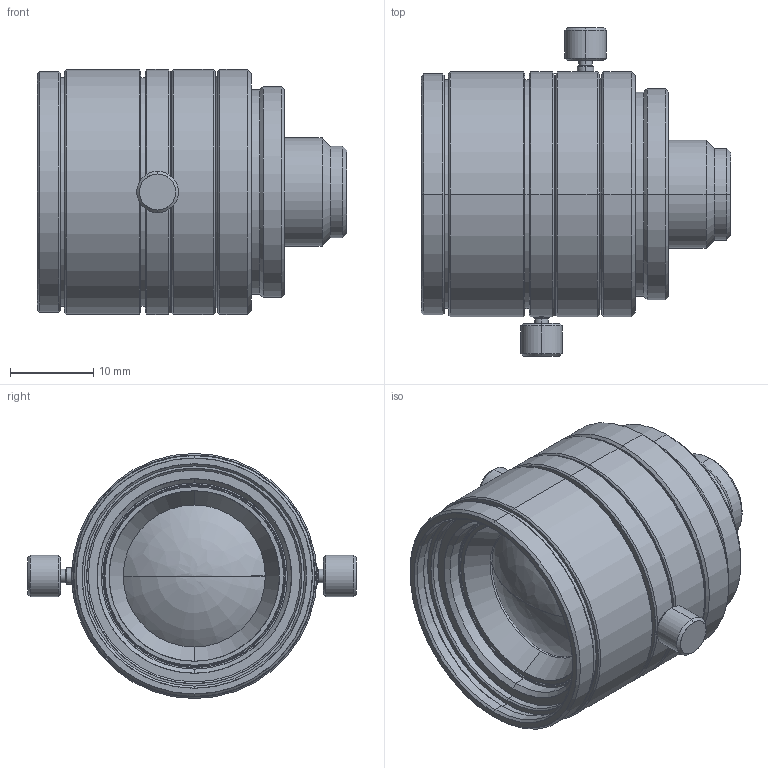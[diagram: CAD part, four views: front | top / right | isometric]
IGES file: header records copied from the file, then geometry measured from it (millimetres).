
Start section: SolidWorks IGES file using analytic representation for surfaces
Global section: file name: C:\Users\tsuji_vst\Documents\【図面】\_3D\00 VST\VS-LDA(APL)\LDA6.5\VS-LDA6.5.IGS; native system: SolidWorks 2017; preprocessor: SolidWorks 2017; author: tsuji_vst; date: 170105.100150; units: millimetre
Bounding box: 37.29 x 39.55 x 29.5 mm (x, y, z)
Surface area: 7874.7 mm2 (no closed solid volume)
Topology: 0 solids, 0 shells, 184 faces, 3276 edges, 3274 vertices
Faces by surface type: revolution 154, bspline 30
